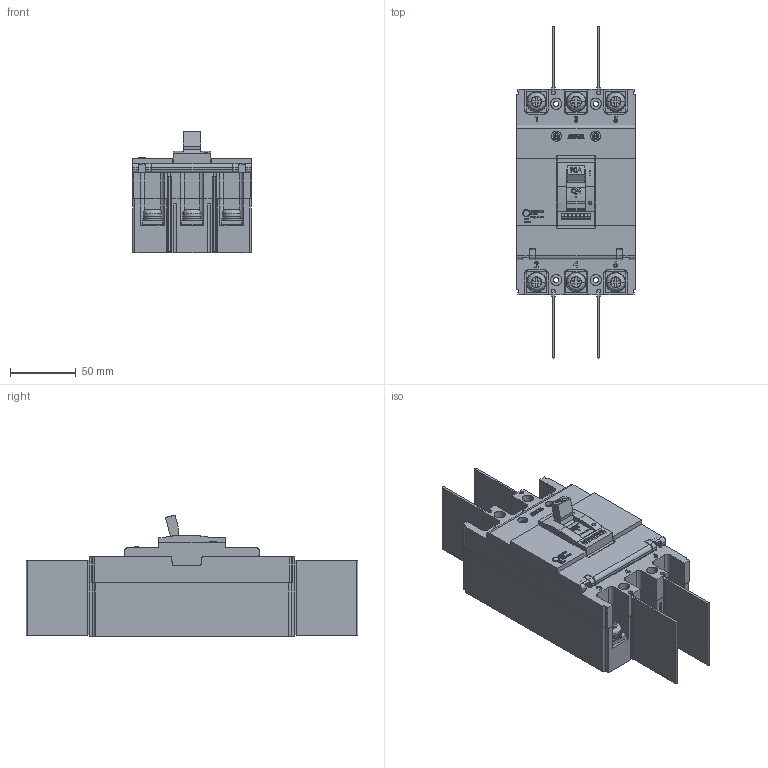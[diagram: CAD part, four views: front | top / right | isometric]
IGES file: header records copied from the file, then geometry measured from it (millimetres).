
Start section: SolidWorks IGES file using analytic representation for surfaces
Global section: file name: D:\X - Arquivos\PROEX\Empresas\P11 - METALTEX\01 - Produtos\IGES\5ª remessa\3ª etapa\DCM100S3.IGS; native system: SolidWorks 2012; preprocessor: SolidWorks 2012; author: Usuario; date: 180829.125623; units: millimetre
Bounding box: 90 x 251.5 x 92.17 mm (x, y, z)
Surface area: 129555.6 mm2 (no closed solid volume)
Topology: 0 solids, 0 shells, 1386 faces, 14350 edges, 14350 vertices
Faces by surface type: bspline 1190, revolution 196
